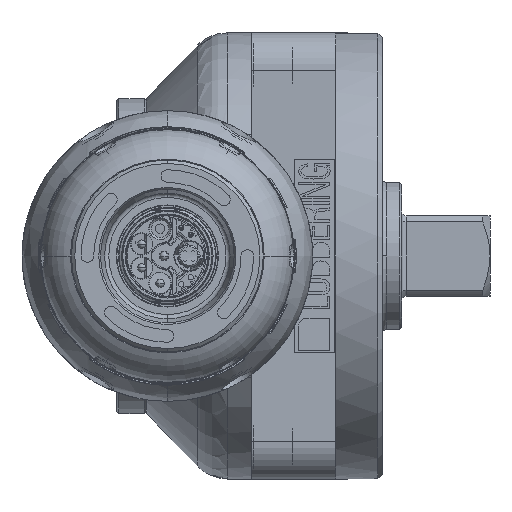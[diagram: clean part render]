
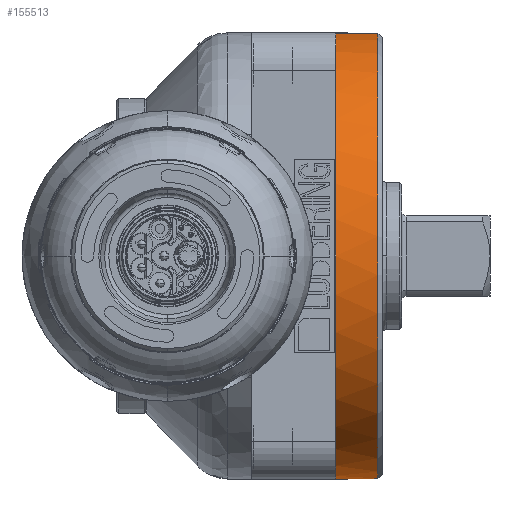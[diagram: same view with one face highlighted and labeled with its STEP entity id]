
A CAD part, left-side view. The second image highlights one B-rep face of the part: STEP entity #155513.
In plain terms, the highlighted cylindrical face has radius 53 mm (diameter 106 mm), a partial arc.
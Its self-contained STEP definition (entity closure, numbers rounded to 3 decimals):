
#150283=CARTESIAN_POINT('',(200.2,-50.,0.));
#150284=DIRECTION('',(0.,1.,0.));
#150285=DIRECTION('',(0.086,0.,-0.996));
#150286=AXIS2_PLACEMENT_3D('',#150283,#150284,#150285);
#150301=DIRECTION('',(0.,1.,0.));
#150302=VECTOR('',#150301,10.);
#150303=CARTESIAN_POINT('',(195.619,-50.,52.802));
#150304=LINE('',#150303,#150302);
#150305=DIRECTION('',(0.,1.,0.));
#150306=VECTOR('',#150305,10.);
#150307=CARTESIAN_POINT('',(204.781,-50.,-52.802));
#150308=LINE('',#150307,#150306);
#151844=CARTESIAN_POINT('',(200.2,-40.,0.));
#151845=DIRECTION('',(0.,1.,0.));
#151846=DIRECTION('',(-1.,0.,0.));
#151847=AXIS2_PLACEMENT_3D('',#151844,#151845,#151846);
#151877=CARTESIAN_POINT('',(200.2,-40.,0.));
#151878=DIRECTION('',(0.,1.,0.));
#151879=DIRECTION('',(0.,0.,-1.));
#151880=AXIS2_PLACEMENT_3D('',#151877,#151878,#151879);
#151923=CARTESIAN_POINT('',(200.2,-40.,0.));
#151924=DIRECTION('',(0.,1.,0.));
#151925=DIRECTION('',(0.086,0.,-0.996));
#151926=AXIS2_PLACEMENT_3D('',#151923,#151924,#151925);
#152122=CARTESIAN_POINT('',(147.2,-40.,0.));
#152123=VERTEX_POINT('',#152122);
#152830=CARTESIAN_POINT('',(200.2,-40.,-53.));
#152831=VERTEX_POINT('',#152830);
#153028=CARTESIAN_POINT('',(204.781,-40.,-52.802));
#153029=VERTEX_POINT('',#153028);
#153351=CARTESIAN_POINT('',(195.619,-50.,52.802));
#153353=VERTEX_POINT('',#153351);
#153356=CARTESIAN_POINT('',(204.781,-50.,-52.802));
#153357=VERTEX_POINT('',#153356);
#153358=CARTESIAN_POINT('',(195.619,-40.,52.802));
#153359=VERTEX_POINT('',#153358);
#155495=CARTESIAN_POINT('',(200.2,-45.25,0.));
#155496=DIRECTION('',(0.,1.,0.));
#155497=DIRECTION('',(-0.086,0.,0.996));
#155498=AXIS2_PLACEMENT_3D('',#155495,#155496,#155497);
#155499=CYLINDRICAL_SURFACE('',#155498,53.);
#155501=ORIENTED_EDGE('',*,*,#155500,.F.);
#155502=ORIENTED_EDGE('',*,*,#155472,.F.);
#155504=ORIENTED_EDGE('',*,*,#155503,.T.);
#155506=ORIENTED_EDGE('',*,*,#155505,.T.);
#155508=ORIENTED_EDGE('',*,*,#155507,.T.);
#155510=ORIENTED_EDGE('',*,*,#155509,.T.);
#155511=EDGE_LOOP('',(#155501,#155502,#155504,#155506,#155508,#155510));
#155512=FACE_OUTER_BOUND('',#155511,.F.);
#155513=ADVANCED_FACE('',(#155512),#155499,.T.);
#150287=CIRCLE('',#150286,53.);
#151848=CIRCLE('',#151847,53.);
#151881=CIRCLE('',#151880,53.);
#151927=CIRCLE('',#151926,53.);
#155472=EDGE_CURVE('',#153357,#153353,#150287,.T.);
#155500=EDGE_CURVE('',#153353,#153359,#150304,.T.);
#155503=EDGE_CURVE('',#153357,#153029,#150308,.T.);
#155505=EDGE_CURVE('',#153029,#152831,#151927,.T.);
#155507=EDGE_CURVE('',#152831,#152123,#151881,.T.);
#155509=EDGE_CURVE('',#152123,#153359,#151848,.T.);
